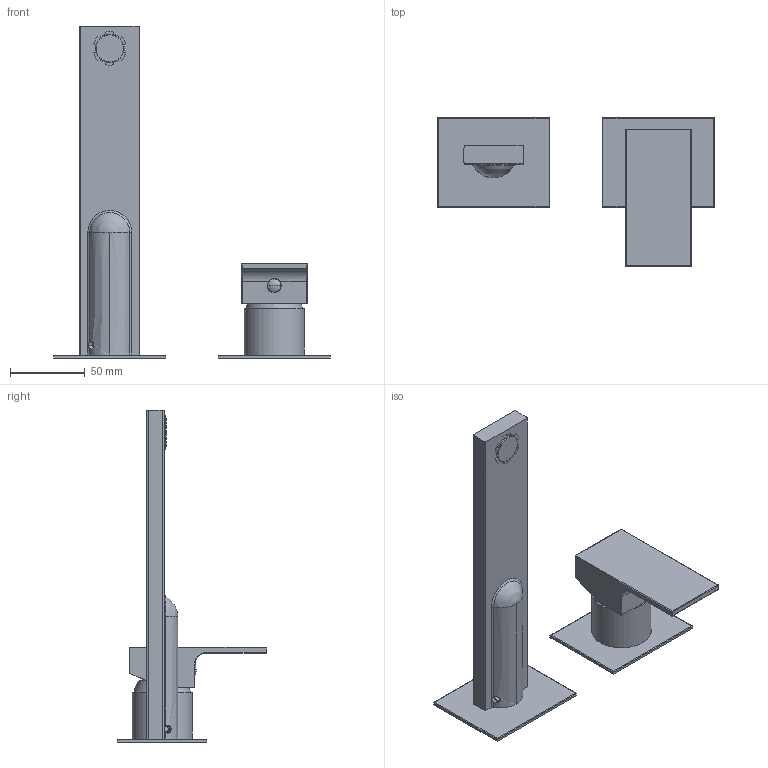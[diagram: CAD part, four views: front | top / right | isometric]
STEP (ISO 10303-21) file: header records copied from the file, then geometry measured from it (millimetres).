
FILE_DESCRIPTION((''),'2;1');
FILE_NAME('35547_SW0001','2020-09-18T16:14:03',('volponeff'),(''),'CREO PARAMETRIC BY PTC INC, 2018100','CREO PARAMETRIC BY PTC INC, 2018100','');
FILE_SCHEMA(('CONFIG_CONTROL_DESIGN'));
Length unit declared in the file: millimetre
Products named in the file (1): 35547_SW0001
Bounding box: 185 x 100 x 222 mm (x, y, z)
Volume: 203843.3 mm3; surface area: 78217.4 mm2
Topology: 2 solids, 3 shells, 332 faces, 826 edges, 507 vertices
Faces by surface type: plane 138, cylinder 105, cone 44, bspline 17, torus 16, sphere 12
Entity records: 12830 total; most frequent: CARTESIAN_POINT 5041, ORIENTED_EDGE 1634, DIRECTION 1590, EDGE_CURVE 817, AXIS2_PLACEMENT_3D 578, VERTEX_POINT 507, VECTOR 434, LINE 434
